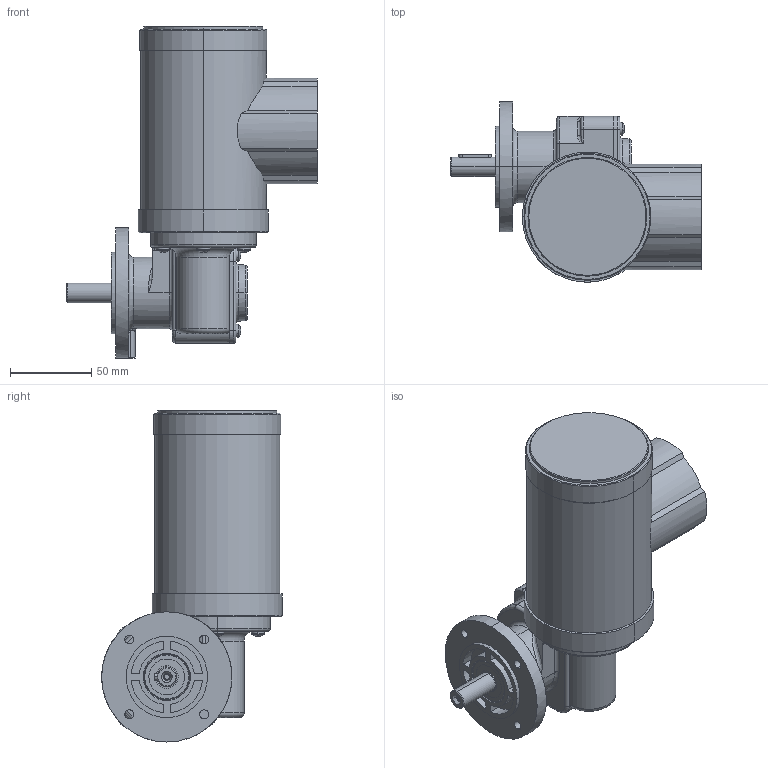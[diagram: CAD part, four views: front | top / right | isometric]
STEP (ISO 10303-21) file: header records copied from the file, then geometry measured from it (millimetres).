
FILE_DESCRIPTION (( 'STEP AP214' ), '1' );
FILE_NAME ('SN5FR_90W_3000Upm_D.STEP', '2021-03-04T09:35:46', ( '' ), ( '' ), 'SwSTEP 2.0', 'SolidWorks 2019', '' );
FILE_SCHEMA (( 'AUTOMOTIVE_DESIGN' ));
Length unit declared in the file: millimetre
Products named in the file (1): SN5FR_90W_3000Upm_D
Bounding box: 154 x 111 x 204 mm (x, y, z)
Surface area: 88421.8 mm2 (no closed solid volume)
Topology: 0 solids, 14 shells, 352 faces, 988 edges, 655 vertices
Faces by surface type: plane 132, cylinder 104, torus 44, cone 43, sphere 16, bspline 13
Entity records: 16718 total; most frequent: CARTESIAN_POINT 3681, DIRECTION 2057, ORIENTED_EDGE 1759, EDGE_CURVE 987, AXIS2_PLACEMENT_3D 856, VERTEX_POINT 655, CIRCLE 516, EDGE_LOOP 398
